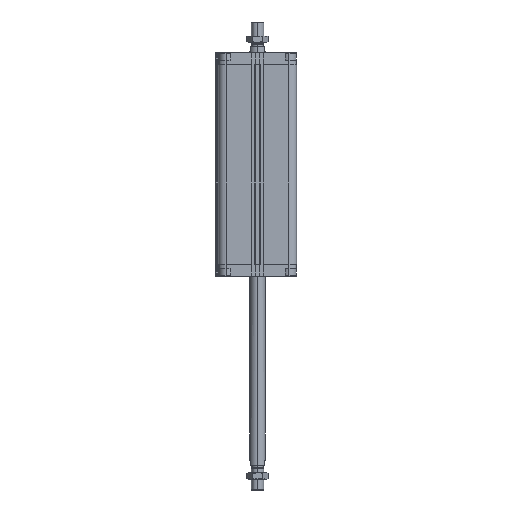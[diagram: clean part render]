
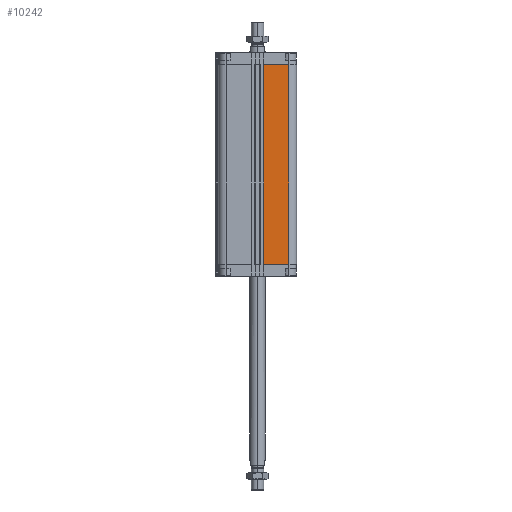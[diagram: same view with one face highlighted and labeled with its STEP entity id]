
A CAD part, left-side view. The second image highlights one B-rep face of the part: STEP entity #10242.
In plain terms, the highlighted planar face has unit normal (-1, 0, 0).
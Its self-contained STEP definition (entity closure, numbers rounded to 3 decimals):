
#127 = ORIENTED_EDGE ( 'NONE', *, *, #21827, .F. ) ;
#198 = CARTESIAN_POINT ( 'NONE',  ( -64., -9.95, -19.5 ) ) ;
#550 = LINE ( 'NONE', #2283, #10919 ) ;
#1597 = VERTEX_POINT ( 'NONE', #11841 ) ;
#2283 = CARTESIAN_POINT ( 'NONE',  ( -64., -51.5, -347. ) ) ;
#2834 = CARTESIAN_POINT ( 'NONE',  ( -64., -9.95, -347. ) ) ;
#2963 = VERTEX_POINT ( 'NONE', #11278 ) ;
#3412 = AXIS2_PLACEMENT_3D ( 'NONE', #21078, #5357, #19679 ) ;
#4046 = LINE ( 'NONE', #6243, #8697 ) ;
#5125 = PLANE ( 'NONE',  #3412 ) ;
#5357 = DIRECTION ( 'NONE',  ( -1., 0., 0. ) ) ;
#6243 = CARTESIAN_POINT ( 'NONE',  ( -64., -9.95, -347. ) ) ;
#7551 = CARTESIAN_POINT ( 'NONE',  ( -64., -9.95, -347. ) ) ;
#8047 = VERTEX_POINT ( 'NONE', #2834 ) ;
#8301 = ORIENTED_EDGE ( 'NONE', *, *, #11020, .T. ) ;
#8697 = VECTOR ( 'NONE', #13365, 1000. ) ;
#10242 = ADVANCED_FACE ( 'NONE', ( #21312 ), #5125, .T. ) ;
#10533 = ORIENTED_EDGE ( 'NONE', *, *, #19877, .T. ) ;
#10919 = VECTOR ( 'NONE', #21958, 1000. ) ;
#11020 = EDGE_CURVE ( 'NONE', #2963, #21026, #550, .T. ) ;
#11278 = CARTESIAN_POINT ( 'NONE',  ( -64., -51.5, -347. ) ) ;
#11287 = CARTESIAN_POINT ( 'NONE',  ( -64., -51.5, -19.5 ) ) ;
#11292 = EDGE_CURVE ( 'NONE', #1597, #21026, #19181, .T. ) ;
#11389 = DIRECTION ( 'NONE',  ( 0., 0., 1. ) ) ;
#11841 = CARTESIAN_POINT ( 'NONE',  ( -64., -9.95, -19.5 ) ) ;
#13230 = EDGE_LOOP ( 'NONE', ( #21993, #127, #10533, #8301 ) ) ;
#13365 = DIRECTION ( 'NONE',  ( 0., -1., 0. ) ) ;
#13532 = VECTOR ( 'NONE', #11389, 1000. ) ;
#16389 = LINE ( 'NONE', #7551, #13532 ) ;
#16835 = VECTOR ( 'NONE', #17428, 1000. ) ;
#17428 = DIRECTION ( 'NONE',  ( 0., -1., 0. ) ) ;
#19181 = LINE ( 'NONE', #198, #16835 ) ;
#19679 = DIRECTION ( 'NONE',  ( 0., -1., 0. ) ) ;
#19877 = EDGE_CURVE ( 'NONE', #8047, #2963, #4046, .T. ) ;
#21026 = VERTEX_POINT ( 'NONE', #11287 ) ;
#21078 = CARTESIAN_POINT ( 'NONE',  ( -64., -9.95, -347. ) ) ;
#21312 = FACE_OUTER_BOUND ( 'NONE', #13230, .T. ) ;
#21827 = EDGE_CURVE ( 'NONE', #8047, #1597, #16389, .T. ) ;
#21958 = DIRECTION ( 'NONE',  ( 0., 0., 1. ) ) ;
#21993 = ORIENTED_EDGE ( 'NONE', *, *, #11292, .F. ) ;
